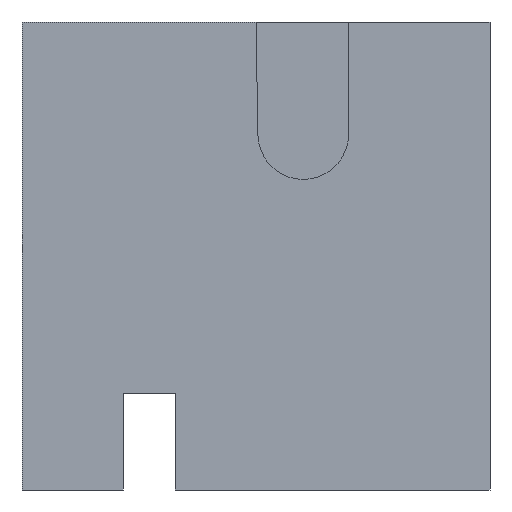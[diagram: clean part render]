
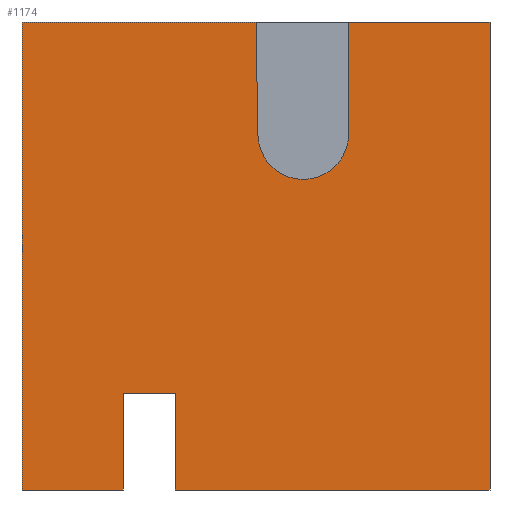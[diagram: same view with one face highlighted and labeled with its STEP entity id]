
A CAD part, front view. The second image highlights one B-rep face of the part: STEP entity #1174.
In plain terms, the highlighted planar face has unit normal (0, -1, 0).
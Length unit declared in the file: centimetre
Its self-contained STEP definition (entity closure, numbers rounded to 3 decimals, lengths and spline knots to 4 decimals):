
#7 = DIRECTION ( 'NONE',  ( 0., -1., 0. ) ) ;
#13 = CARTESIAN_POINT ( 'NONE',  ( 504.0497, 0., 760.4348 ) ) ;
#15 = FACE_OUTER_BOUND ( 'NONE', #1095, .T. ) ;
#19 = EDGE_CURVE ( 'NONE', #670, #178, #910, .T. ) ;
#25 = DIRECTION ( 'NONE',  ( 0., 0., 1. ) ) ;
#30 = CARTESIAN_POINT ( 'NONE',  ( 1000., 0., 1000. ) ) ;
#42 = CARTESIAN_POINT ( 'NONE',  ( 0., 0., 1000. ) ) ;
#51 = ORIENTED_EDGE ( 'NONE', *, *, #1102, .T. ) ;
#78 = ORIENTED_EDGE ( 'NONE', *, *, #705, .F. ) ;
#115 = DIRECTION ( 'NONE',  ( 0., 0., -1. ) ) ;
#121 = LINE ( 'NONE', #13, #666 ) ;
#152 = EDGE_CURVE ( 'NONE', #1020, #342, #951, .T. ) ;
#159 = VERTEX_POINT ( 'NONE', #583 ) ;
#178 = VERTEX_POINT ( 'NONE', #791 ) ;
#189 = ORIENTED_EDGE ( 'NONE', *, *, #19, .T. ) ;
#198 = LINE ( 'NONE', #300, #515 ) ;
#225 = EDGE_CURVE ( 'NONE', #983, #714, #368, .T. ) ;
#231 = EDGE_CURVE ( 'NONE', #1098, #178, #431, .T. ) ;
#237 = CARTESIAN_POINT ( 'NONE',  ( 600.9896, 0., 760.4348 ) ) ;
#241 = AXIS2_PLACEMENT_3D ( 'NONE', #761, #311, #672 ) ;
#255 = VERTEX_POINT ( 'NONE', #1175 ) ;
#265 = LINE ( 'NONE', #351, #498 ) ;
#290 = DIRECTION ( 'NONE',  ( 0., 0., 1. ) ) ;
#299 = CARTESIAN_POINT ( 'NONE',  ( 327.8539, 0., 205.4764 ) ) ;
#300 = CARTESIAN_POINT ( 'NONE',  ( 0., 0., 1000. ) ) ;
#311 = DIRECTION ( 'NONE',  ( 0., 1., 0. ) ) ;
#322 = VECTOR ( 'NONE', #602, 100. ) ;
#339 = VECTOR ( 'NONE', #540, 100. ) ;
#342 = VERTEX_POINT ( 'NONE', #897 ) ;
#351 = CARTESIAN_POINT ( 'NONE',  ( 697.9294, 0., 1000. ) ) ;
#368 = CIRCLE ( 'NONE', #925, 96.9398 ) ;
#381 = DIRECTION ( 'NONE',  ( 0.017, 0., -1. ) ) ;
#385 = CARTESIAN_POINT ( 'NONE',  ( 0., 0., 1000. ) ) ;
#388 = CARTESIAN_POINT ( 'NONE',  ( 327.8539, 0., 0. ) ) ;
#395 = LINE ( 'NONE', #669, #417 ) ;
#401 = CARTESIAN_POINT ( 'NONE',  ( 600.9896, 0., 663.495 ) ) ;
#411 = CARTESIAN_POINT ( 'NONE',  ( 500., 0., 1000. ) ) ;
#413 = CARTESIAN_POINT ( 'NONE',  ( 697.9294, 0., 1000. ) ) ;
#417 = VECTOR ( 'NONE', #1049, 100. ) ;
#421 = VERTEX_POINT ( 'NONE', #413 ) ;
#431 = LINE ( 'NONE', #1096, #1129 ) ;
#432 = VERTEX_POINT ( 'NONE', #973 ) ;
#433 = VECTOR ( 'NONE', #115, 100. ) ;
#437 = DIRECTION ( 'NONE',  ( 0., 0., -1. ) ) ;
#445 = DIRECTION ( 'NONE',  ( 0., 0., 1. ) ) ;
#477 = CARTESIAN_POINT ( 'NONE',  ( 327.8539, 0., 0. ) ) ;
#480 = DIRECTION ( 'NONE',  ( 1., 0., 0. ) ) ;
#487 = LINE ( 'NONE', #388, #433 ) ;
#497 = ORIENTED_EDGE ( 'NONE', *, *, #689, .T. ) ;
#498 = VECTOR ( 'NONE', #1010, 100. ) ;
#515 = VECTOR ( 'NONE', #480, 100. ) ;
#534 = EDGE_CURVE ( 'NONE', #159, #421, #265, .T. ) ;
#540 = DIRECTION ( 'NONE',  ( 1., 0., 0. ) ) ;
#583 = CARTESIAN_POINT ( 'NONE',  ( 697.9294, 0., 760.4348 ) ) ;
#602 = DIRECTION ( 'NONE',  ( 0., 0., -1. ) ) ;
#618 = CARTESIAN_POINT ( 'NONE',  ( 0., 0., 0. ) ) ;
#624 = DIRECTION ( 'NONE',  ( 1., 0., 0. ) ) ;
#633 = CARTESIAN_POINT ( 'NONE',  ( 0., 0., 0. ) ) ;
#651 = AXIS2_PLACEMENT_3D ( 'NONE', #952, #7, #25 ) ;
#666 = VECTOR ( 'NONE', #381, 100. ) ;
#669 = CARTESIAN_POINT ( 'NONE',  ( 216.0688, 0., 205.4764 ) ) ;
#670 = VERTEX_POINT ( 'NONE', #477 ) ;
#672 = DIRECTION ( 'NONE',  ( 0., 0., 1. ) ) ;
#689 = EDGE_CURVE ( 'NONE', #255, #1088, #395, .T. ) ;
#705 = EDGE_CURVE ( 'NONE', #714, #159, #779, .T. ) ;
#712 = EDGE_CURVE ( 'NONE', #808, #983, #121, .T. ) ;
#714 = VERTEX_POINT ( 'NONE', #401 ) ;
#742 = CARTESIAN_POINT ( 'NONE',  ( 216.0688, 0., 0. ) ) ;
#746 = LINE ( 'NONE', #742, #918 ) ;
#750 = VECTOR ( 'NONE', #852, 100. ) ;
#761 = CARTESIAN_POINT ( 'NONE',  ( 0., 0., 1000. ) ) ;
#779 = CIRCLE ( 'NONE', #651, 96.9398 ) ;
#791 = CARTESIAN_POINT ( 'NONE',  ( 1000., 0., 0. ) ) ;
#808 = VERTEX_POINT ( 'NONE', #411 ) ;
#811 = LINE ( 'NONE', #633, #961 ) ;
#826 = CARTESIAN_POINT ( 'NONE',  ( 0., 0., 1000. ) ) ;
#852 = DIRECTION ( 'NONE',  ( 1., 0., 0. ) ) ;
#857 = ORIENTED_EDGE ( 'NONE', *, *, #225, .F. ) ;
#881 = EDGE_CURVE ( 'NONE', #421, #1098, #198, .T. ) ;
#897 = CARTESIAN_POINT ( 'NONE',  ( 0., 0., 0. ) ) ;
#907 = ORIENTED_EDGE ( 'NONE', *, *, #1194, .T. ) ;
#910 = LINE ( 'NONE', #618, #339 ) ;
#918 = VECTOR ( 'NONE', #290, 100. ) ;
#925 = AXIS2_PLACEMENT_3D ( 'NONE', #237, #1006, #445 ) ;
#928 = ORIENTED_EDGE ( 'NONE', *, *, #1166, .F. ) ;
#943 = EDGE_CURVE ( 'NONE', #342, #432, #811, .T. ) ;
#950 = LINE ( 'NONE', #385, #750 ) ;
#951 = LINE ( 'NONE', #42, #322 ) ;
#952 = CARTESIAN_POINT ( 'NONE',  ( 600.9896, 0., 760.4348 ) ) ;
#961 = VECTOR ( 'NONE', #624, 100. ) ;
#973 = CARTESIAN_POINT ( 'NONE',  ( 216.0688, 0., 0. ) ) ;
#983 = VERTEX_POINT ( 'NONE', #1111 ) ;
#987 = ORIENTED_EDGE ( 'NONE', *, *, #534, .F. ) ;
#990 = ORIENTED_EDGE ( 'NONE', *, *, #152, .T. ) ;
#1004 = ORIENTED_EDGE ( 'NONE', *, *, #712, .F. ) ;
#1006 = DIRECTION ( 'NONE',  ( 0., -1., 0. ) ) ;
#1010 = DIRECTION ( 'NONE',  ( 0., 0., 1. ) ) ;
#1020 = VERTEX_POINT ( 'NONE', #826 ) ;
#1049 = DIRECTION ( 'NONE',  ( 1., 0., 0. ) ) ;
#1088 = VERTEX_POINT ( 'NONE', #299 ) ;
#1095 = EDGE_LOOP ( 'NONE', ( #857, #1004, #928, #990, #1163, #907, #497, #51, #189, #1181, #1196, #987, #78 ) ) ;
#1096 = CARTESIAN_POINT ( 'NONE',  ( 1000., 0., 1000. ) ) ;
#1098 = VERTEX_POINT ( 'NONE', #30 ) ;
#1102 = EDGE_CURVE ( 'NONE', #1088, #670, #487, .T. ) ;
#1111 = CARTESIAN_POINT ( 'NONE',  ( 504.0497, 0., 760.4348 ) ) ;
#1129 = VECTOR ( 'NONE', #437, 100. ) ;
#1137 = PLANE ( 'NONE',  #241 ) ;
#1163 = ORIENTED_EDGE ( 'NONE', *, *, #943, .T. ) ;
#1166 = EDGE_CURVE ( 'NONE', #1020, #808, #950, .T. ) ;
#1174 = ADVANCED_FACE ( 'NONE', ( #15 ), #1137, .F. ) ;
#1175 = CARTESIAN_POINT ( 'NONE',  ( 216.0688, 0., 205.4764 ) ) ;
#1181 = ORIENTED_EDGE ( 'NONE', *, *, #231, .F. ) ;
#1194 = EDGE_CURVE ( 'NONE', #432, #255, #746, .T. ) ;
#1196 = ORIENTED_EDGE ( 'NONE', *, *, #881, .F. ) ;
